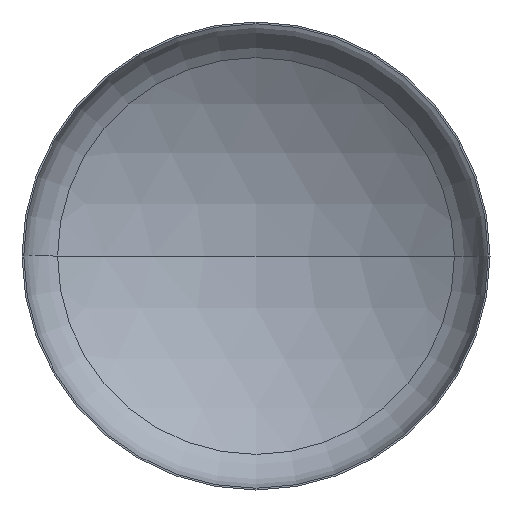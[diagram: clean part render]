
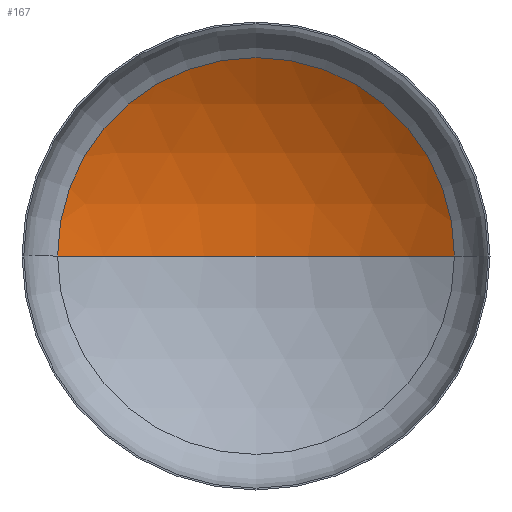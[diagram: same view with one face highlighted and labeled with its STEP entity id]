
A CAD part, front view. The second image highlights one B-rep face of the part: STEP entity #167.
In plain terms, the highlighted spherical face has radius 3200 mm.
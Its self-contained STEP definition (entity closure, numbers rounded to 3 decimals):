
#1 = ORIENTED_EDGE ( 'NONE', *, *, #243, .T. ) ;
#14 = EDGE_LOOP ( 'NONE', ( #28, #1, #137 ) ) ;
#18 = VERTEX_POINT ( 'NONE', #284 ) ;
#28 = ORIENTED_EDGE ( 'NONE', *, *, #311, .F. ) ;
#33 = VERTEX_POINT ( 'NONE', #227 ) ;
#34 = DIRECTION ( 'NONE',  ( 0., -1., 0. ) ) ;
#40 = DIRECTION ( 'NONE',  ( 0., 0., 1. ) ) ;
#62 = AXIS2_PLACEMENT_3D ( 'NONE', #304, #364, #289 ) ;
#71 = VERTEX_POINT ( 'NONE', #203 ) ;
#103 = AXIS2_PLACEMENT_3D ( 'NONE', #155, #175, #176 ) ;
#137 = ORIENTED_EDGE ( 'NONE', *, *, #319, .T. ) ;
#142 = CARTESIAN_POINT ( 'NONE',  ( 0., 566.526, 0. ) ) ;
#148 = CIRCLE ( 'NONE', #103, 3200. ) ;
#153 = CARTESIAN_POINT ( 'NONE',  ( 0., -2147.105, 0. ) ) ;
#155 = CARTESIAN_POINT ( 'NONE',  ( 0., -2147.105, 0. ) ) ;
#167 = ADVANCED_FACE ( 'NONE', ( #170 ), #246, .F. ) ;
#170 = FACE_OUTER_BOUND ( 'NONE', #14, .T. ) ;
#175 = DIRECTION ( 'NONE',  ( 0., 0., -1. ) ) ;
#176 = DIRECTION ( 'NONE',  ( -1., 0., 0. ) ) ;
#203 = CARTESIAN_POINT ( 'NONE',  ( -1695.938, 566.526, 0. ) ) ;
#227 = CARTESIAN_POINT ( 'NONE',  ( 0., 1052.895, 0. ) ) ;
#243 = EDGE_CURVE ( 'NONE', #33, #18, #148, .T. ) ;
#246 = SPHERICAL_SURFACE ( 'NONE', #62, 3200. ) ;
#283 = DIRECTION ( 'NONE',  ( 1., 0., 0. ) ) ;
#284 = CARTESIAN_POINT ( 'NONE',  ( 1695.938, 566.526, 0. ) ) ;
#289 = DIRECTION ( 'NONE',  ( -1., 0., 0. ) ) ;
#304 = CARTESIAN_POINT ( 'NONE',  ( 0., -2147.105, 0. ) ) ;
#311 = EDGE_CURVE ( 'NONE', #33, #71, #392, .T. ) ;
#319 = EDGE_CURVE ( 'NONE', #18, #71, #343, .T. ) ;
#324 = AXIS2_PLACEMENT_3D ( 'NONE', #142, #34, #365 ) ;
#343 = CIRCLE ( 'NONE', #324, 1695.938 ) ;
#344 = AXIS2_PLACEMENT_3D ( 'NONE', #153, #40, #283 ) ;
#364 = DIRECTION ( 'NONE',  ( 0., 0., -1. ) ) ;
#365 = DIRECTION ( 'NONE',  ( 1., 0., 0. ) ) ;
#392 = CIRCLE ( 'NONE', #344, 3200. ) ;
